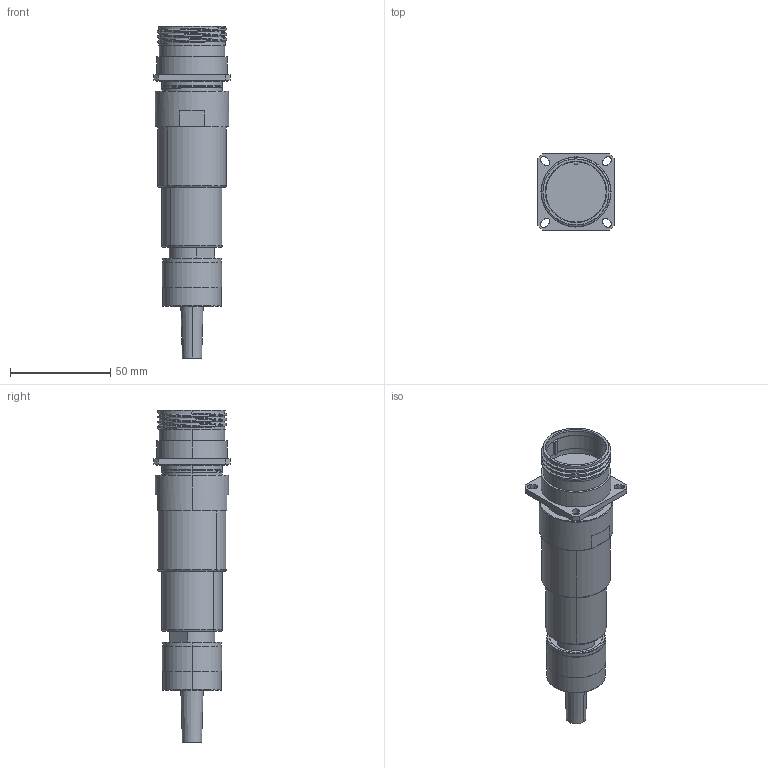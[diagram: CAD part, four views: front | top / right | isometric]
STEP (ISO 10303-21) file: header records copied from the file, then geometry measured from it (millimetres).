
FILE_DESCRIPTION (( 'STEP AP214' ), '1' );
FILE_NAME ('QPLEX3-RFFX-XXXX-SXXX.STEP', '2025-04-07T18:23:44', ( '' ), ( '' ), 'SwSTEP 2.0', 'SolidWorks 2024', '' );
FILE_SCHEMA (( 'AUTOMOTIVE_DESIGN' ));
Length unit declared in the file: inch
Products named in the file (1): QPLEX3-RFFX-XXXX-SXXX
Bounding box: 38.1 x 38.1 x 165.3 mm (x, y, z)
Volume: 106542.1 mm3; surface area: 22486.9 mm2
Topology: 2 solids, 2 shells, 159 faces, 385 edges, 247 vertices
Faces by surface type: cylinder 72, plane 43, torus 27, cone 13, bspline 4
Entity records: 5565 total; most frequent: CARTESIAN_POINT 1780, DIRECTION 823, ORIENTED_EDGE 770, EDGE_CURVE 385, AXIS2_PLACEMENT_3D 338, VERTEX_POINT 247, EDGE_LOOP 186, CIRCLE 182
